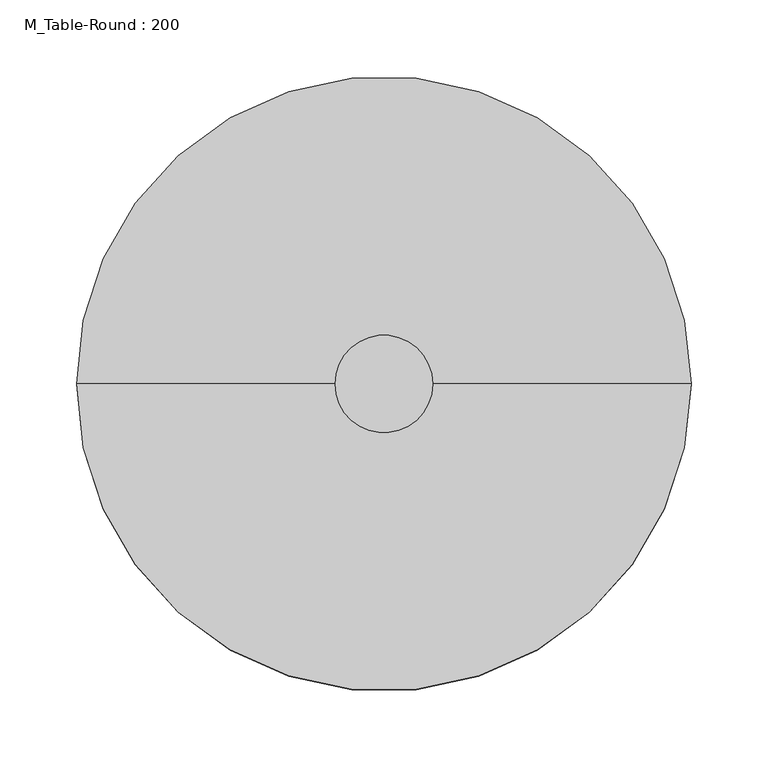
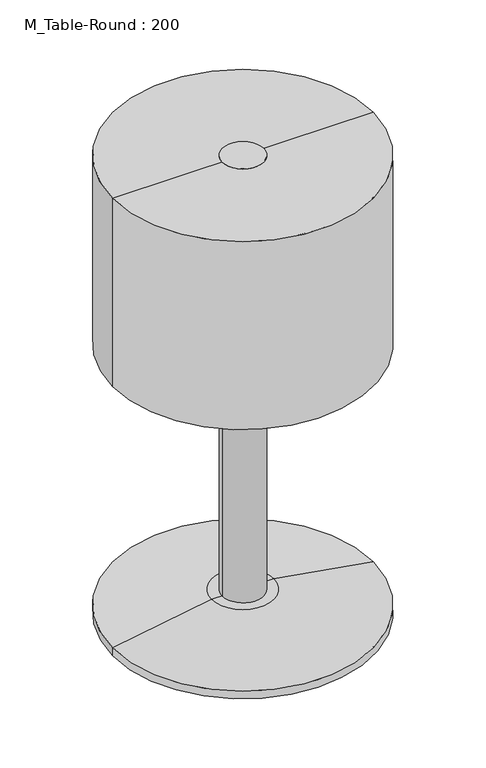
"""IFC4 building model written with IfcOpenShell, lengths in millimetres: furniture geometry, M_Table-Round : 200."""

from ifc_helpers import new_model, si_unit, point, frame, origin, origin_2d, place, context, project, spatial, polyline, circle_curve, ellipse_curve, trimmed, segment, composite_curve, outline, extrude, source, transform, mapped, element, save
from ifc_brep_helpers import plane_surface, cylinder_surface, revolved_surface, advanced_brep


def m_table_round_200_b90cb30e(model_context):
    return source(origin(), model_context, "Body", "SolidModel", [
        extrude(outline(composite_curve([segment(trimmed(circle_curve(origin_2d(), 31.75), [point((-31.75, 0.0))], [point((31.75, 0.0))], False, "CARTESIAN"), True, "CONTINUOUS"), segment(trimmed(circle_curve(origin_2d(), 31.75), [point((31.75, 0.0))], [point((-31.75, 0.0))], False, "CARTESIAN"), True, "CONTINUOUS")], self_intersect=False)), frame((0.0, 0.0, 38.1), z_axis=(0.0, 0.0, 1.0), x_axis=(1.0, 0.0, 0.0)), (0.0, 0.0, 1.0), 704.85),
        advanced_brep(
        [(200.0, 0.0, 742.95), (0.0, 0.0, 742.95), (-200.0, 0.0, 742.95), (0.0, 0.0, 450.0), (158.1011364, 0.0, 450.0), (-158.1011364, 0.0, 450.0), (194.7526659, 0.0, 443.5373465), (-194.7526659, 0.0, 443.5373465), (200.0, 0.0, 437.2838172), (-200.0, 0.0, 437.2838172)],
        [
            (0, 1),
            (1, 2),
            (2, 0, circle_curve(frame((0.0, 0.0, 742.95), z_axis=(0.0, 0.0, 1.0), x_axis=(-1.0, 0.0, 0.0)), 200.0)),
            (0, 2, circle_curve(frame((0.0, 0.0, 742.95), z_axis=(0.0, 0.0, 1.0), x_axis=(-1.0, 0.0, 0.0)), 200.0)),
            (3, 4),
            (4, 5, circle_curve(frame((0.0, 0.0, 450.0), z_axis=(0.0, 0.0, -1.0), x_axis=(-1.0, 0.0, 0.0)), 158.1011364)),
            (5, 3),
            (5, 4, circle_curve(frame((0.0, 0.0, 450.0), z_axis=(0.0, 0.0, -1.0), x_axis=(-1.0, 0.0, 0.0)), 158.1011364)),
            (4, 6),
            (6, 7, circle_curve(frame((0.0, 0.0, 443.5373465), z_axis=(0.0, 0.0, -1.0), x_axis=(-1.0, 0.0, 0.0)), 194.7526659)),
            (7, 5),
            (7, 6, circle_curve(frame((0.0, 0.0, 443.5373465), z_axis=(0.0, 0.0, -1.0), x_axis=(-1.0, 0.0, 0.0)), 194.7526659)),
            (6, 8, circle_curve(frame((193.65, 0.0, 437.2838172), z_axis=(0.0, 1.0, 0.0), x_axis=(-1.0, 0.0, 0.0)), 6.35)),
            (8, 9, circle_curve(frame((0.0, 0.0, 437.2838172), z_axis=(0.0, 0.0, -1.0), x_axis=(-1.0, 0.0, 0.0)), 200.0)),
            (9, 7, circle_curve(frame((-193.65, 0.0, 437.2838172), z_axis=(0.0, 1.0, 0.0), x_axis=(1.0, 0.0, 0.0)), 6.35)),
            (9, 8, circle_curve(frame((0.0, 0.0, 437.2838172), z_axis=(0.0, 0.0, -1.0), x_axis=(-1.0, 0.0, 0.0)), 200.0)),
            (8, 0),
            (2, 9),
        ],
        [
            plane_surface(frame((0.0, 0.0, 742.95), z_axis=(0.0, 0.0, 1.0), x_axis=(-1.0, 0.0, 0.0))),
            plane_surface(frame((0.0, 0.0, 450.0), z_axis=(0.0, 0.0, -1.0), x_axis=(-1.0, 0.0, 0.0))),
            revolved_surface(polyline([(-194.7526659, 0.0, 443.5373465), (-158.1011364, 0.0, 450.0)]), (0.0, 0.0, 526.2), (0.0, 0.0, -1.0)),
            revolved_surface(trimmed(ellipse_curve(frame((-193.65, 0.0, 437.2838172), z_axis=(0.0, 1.0, 0.0), x_axis=(1.0, 0.0, 0.0)), 6.35, 6.35), [point((-200.0, 0.0, 437.2838172))], [point((-194.7526659, 0.0, 443.5373465))], True, "CARTESIAN"), (0.0, 0.0, 526.2), (0.0, 0.0, -1.0)),
            cylinder_surface(frame((0.0, 0.0, 526.2), z_axis=(0.0, 0.0, -1.0), x_axis=(-1.0, 0.0, 0.0)), 200.0),
        ],
        [
            (0, [[1, 2, 3]]),
            (0, [[-2, -1, 4]]),
            (1, [[5, 6, 7]]),
            (1, [[-7, 8, -5]]),
            (2, [[9, 10, 11, -6]]),
            (2, [[-11, 12, -9, -8]]),
            (3, [[13, 14, 15, -10]]),
            (3, [[-15, 16, -13, -12]]),
            (4, [[17, -3, 18, -14]]),
            (4, [[-18, -4, -17, -16]]),
        ],
    ),
        advanced_brep(
        [(0.0, 0.0, 0.0), (200.0, 0.0, 0.0), (-200.0, 0.0, 0.0), (47.625, 0.0, 38.1), (0.0, 0.0, 38.1), (-47.625, 0.0, 38.1), (200.0, 0.0, 12.7), (-200.0, 0.0, 12.7)],
        [
            (0, 1),
            (1, 2, circle_curve(frame((0.0, 0.0, 0.0), z_axis=(0.0, 0.0, -1.0), x_axis=(-1.0, 0.0, 0.0)), 200.0)),
            (2, 0),
            (2, 1, circle_curve(frame((0.0, 0.0, 0.0), z_axis=(0.0, 0.0, -1.0), x_axis=(-1.0, 0.0, 0.0)), 200.0)),
            (3, 4),
            (4, 5),
            (5, 3, circle_curve(frame((0.0, 0.0, 38.1), z_axis=(0.0, 0.0, 1.0), x_axis=(-1.0, 0.0, 0.0)), 47.625)),
            (3, 5, circle_curve(frame((0.0, 0.0, 38.1), z_axis=(0.0, 0.0, 1.0), x_axis=(-1.0, 0.0, 0.0)), 47.625)),
            (6, 3),
            (5, 7),
            (7, 6, circle_curve(frame((0.0, 0.0, 12.7), z_axis=(0.0, 0.0, 1.0), x_axis=(-1.0, 0.0, 0.0)), 200.0)),
            (6, 7, circle_curve(frame((0.0, 0.0, 12.7), z_axis=(0.0, 0.0, 1.0), x_axis=(-1.0, 0.0, 0.0)), 200.0)),
            (1, 6),
            (7, 2),
        ],
        [
            plane_surface(frame((0.0, 0.0, 0.0), z_axis=(0.0, 0.0, -1.0), x_axis=(-1.0, 0.0, 0.0))),
            plane_surface(frame((0.0, 0.0, 38.1), z_axis=(0.0, 0.0, 1.0), x_axis=(-1.0, 0.0, 0.0))),
            revolved_surface(polyline([(-47.625, 0.0, 38.1), (-200.0, 0.0, 12.7)]), (0.0, 0.0, 215.9), (0.0, 0.0, -1.0)),
            cylinder_surface(frame((0.0, 0.0, 215.9), z_axis=(0.0, 0.0, -1.0), x_axis=(-1.0, 0.0, 0.0)), 200.0),
        ],
        [
            (0, [[1, 2, 3]]),
            (0, [[-3, 4, -1]]),
            (1, [[5, 6, 7]]),
            (1, [[-6, -5, 8]]),
            (2, [[9, -7, 10, 11]]),
            (2, [[-10, -8, -9, 12]]),
            (3, [[13, -11, 14, -2]]),
            (3, [[-14, -12, -13, -4]]),
        ],
    ),
    ])


if __name__ == "__main__":
    model = new_model("IFC4")
    model_context = context("Model", 3, world=origin())
    ifc_project = project(units=[si_unit("LENGTHUNIT", "METRE", prefix="MILLI")], contexts=[model_context])
    site = spatial("IfcSite", under=ifc_project)
    building = spatial("IfcBuilding", under=site)
    placement = place(None, origin())
    m_table_round_200_shape = m_table_round_200_b90cb30e(model_context)
    element("IfcFurniture", 1, ObjectType="M_Table-Round : 200", at=placement, inside=building, context=model_context, shape_type="MappedRepresentation", body=[
        mapped(m_table_round_200_shape, transform((0.0, 0.0, 0.0), x_axis=(1.0, 0.0, 0.0), y_axis=(0.0, 1.0, 0.0), z_axis=(0.0, 0.0, 1.0))),
    ])
    save(model, "model.ifc")
